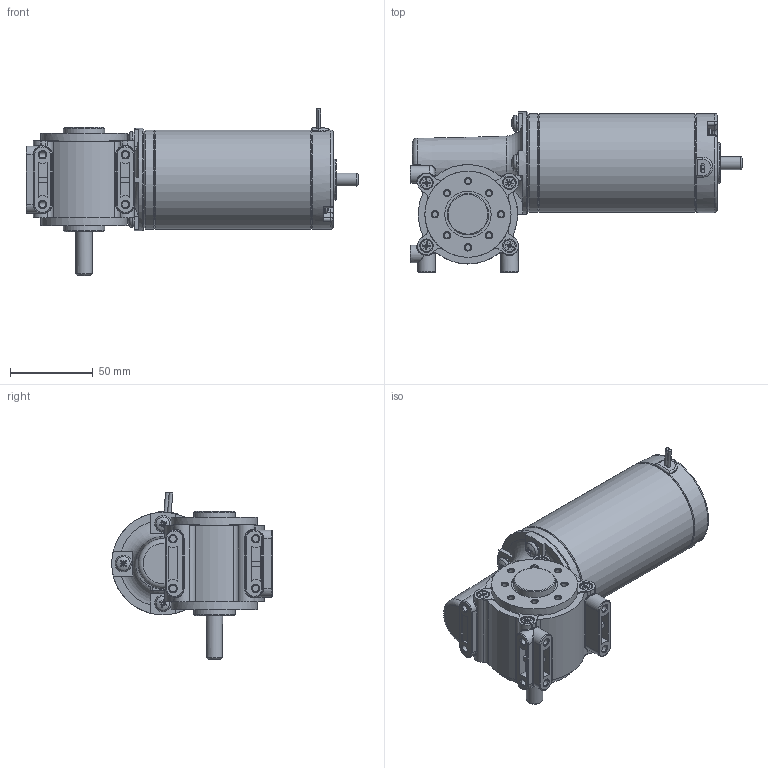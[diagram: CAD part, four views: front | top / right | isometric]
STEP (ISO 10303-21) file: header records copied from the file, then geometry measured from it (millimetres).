
FILE_DESCRIPTION(/* description */ (''),/* implementation_level */ '2;1');
FILE_NAME(/* name */ 'Z:\새 폴더\WORM GEARED RA6_3D\RA61ㅁㅁL.1.stp',/* time_stamp */ '2022-04-25T13:41:21+09:00',/* author */ ('umbro'),/* organization */ (''),/* preprocessor_version */ 'ST-DEVELOPER v17',/* originating_system */ 'Autodesk Inventor 2019',/* authorisation */ '');
FILE_SCHEMA (('AUTOMOTIVE_DESIGN { 1 0 10303 214 3 1 1 }'));
Length unit declared in the file: millimetre
Products named in the file (1): RA61ㅁㅁL
Bounding box: 200.5 x 97 x 101.03 mm (x, y, z)
Volume: 418455.7 mm3; surface area: 100144.4 mm2
Topology: 1 solids, 13 shells, 1072 faces, 2818 edges, 1844 vertices
Faces by surface type: plane 483, cylinder 262, cone 205, torus 75, bspline 36, sphere 11
Full cylindrical faces by diameter (mm): 2.2 x1, 3 x2, 3.242 x2, 3.4 x24, 3.571 x6, 4 x2, 4.1 x8, 4.134 x6, 4.2 x4, 4.51 x3, 4.6 x2, 5 x3, 7 x4, 8 x2, 8.2 x4, 9 x2, 10 x2, 16 x3, 22 x2, 24 x2, 24.9 x1, 25 x3, 28 x2, 30 x2, 32 x1, 35 x1, 47 x1, 51 x1, 52 x2, 53 x1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
Entity records: 37938 total; most frequent: CARTESIAN_POINT 10492, DIRECTION 5617, ORIENTED_EDGE 5610, EDGE_CURVE 2805, AXIS2_PLACEMENT_3D 2262, VERTEX_POINT 1844, EDGE_LOOP 1185, CIRCLE 1131
